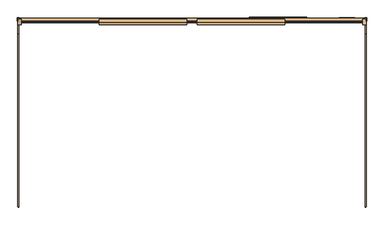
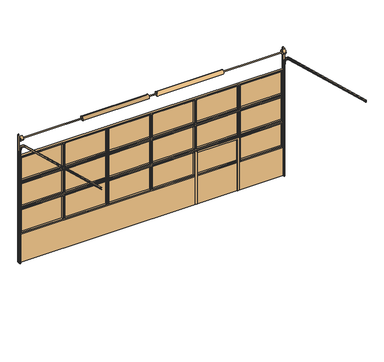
"""IFC4 building model written with IfcOpenShell, lengths in millimetres: door geometry, Vrata Nassau 9000M : Vrata Nassau 9000M."""

from ifc_helpers import new_model, si_unit, point, frame, frame_2d, origin, origin_with_axes, place, context, project, spatial, polyline, circle_curve, trimmed, segment, composite_curve, outline, extrude, faceted_brep, source, transform, mapped, element, save
from ifc_brep_helpers import plane_surface, cylinder_surface, revolved_surface, advanced_brep


def door_d3f973e1(model_context):
    return source(origin(), model_context, "Body", "SolidModel", [
        extrude(outline(polyline([(1384.0, 2140.0), (1384.0, 1070.0), (0.0, 1070.0), (0.0, 1120.0), (1334.0, 1120.0), (1334.0, 2090.0), (0.0, 2090.0), (0.0, 2140.0), (1384.0, 2140.0)])), frame((0.0, -222.5, 0.0), z_axis=(0.0, 1.0, 0.0), x_axis=(0.0, 0.0, 1.0)), (0.0, 0.0, 1.0), 10.0),
        extrude(outline(polyline([(0.0, 2140.0), (1384.0, 2140.0), (1384.0, 1070.0), (0.0, 1070.0), (0.0, 1120.0), (1334.0, 1120.0), (1334.0, 2090.0), (0.0, 2090.0), (0.0, 2140.0)])), frame((0.0, -276.5, 0.0), z_axis=(0.0, 1.0, 0.0), x_axis=(0.0, 0.0, 1.0)), (0.0, 0.0, 1.0), 10.0),
        extrude(outline(composite_curve([segment(polyline([(617.5881905, 2767.6679147), (517.5881905, 2740.8729955)]), True, "CONTINUOUS"), segment(trimmed(circle_curve(frame_2d((515.0, 2750.5322537)), 10.0), [point((517.5881905, 2740.8729955))], [point((505.0, 2750.5322537))], False, "CARTESIAN"), True, "CONTINUOUS"), segment(polyline([(505.0, 2750.5322537), (505.0, 3024.4677463)]), True, "CONTINUOUS"), segment(trimmed(circle_curve(frame_2d((515.0, 3024.4677463)), 10.0), [point((505.0, 3024.4677463))], [point((517.5881905, 3034.1270045))], False, "CARTESIAN"), True, "CONTINUOUS"), segment(polyline([(517.5881905, 3034.1270045), (617.5881905, 3007.3320853)]), True, "CONTINUOUS"), segment(trimmed(circle_curve(frame_2d((615.0, 2997.672827)), 10.0), [point((617.5881905, 3007.3320853))], [point((625.0, 2997.672827))], False, "CARTESIAN"), True, "CONTINUOUS"), segment(polyline([(625.0, 2997.672827), (625.0, 2777.327173)]), True, "CONTINUOUS"), segment(trimmed(circle_curve(frame_2d((615.0, 2777.327173)), 10.0), [point((625.0, 2777.327173))], [point((617.5881905, 2767.6679147))], False, "CARTESIAN"), True, "CONTINUOUS")], self_intersect=False)), frame((0.0, -225.5, 0.0), z_axis=(0.0, 1.0, 0.0), x_axis=(0.0, 0.0, 1.0)), (0.0, 0.0, 1.0), 7.0),
        extrude(outline(polyline([(2116.0, -230.5), (1106.0, -230.5), (1106.0, -225.5), (2116.0, -225.5), (2116.0, -230.5)])), frame((0.0, 0.0, 2119.0), z_axis=(0.0, 0.0, 1.0), x_axis=(1.0, 0.0, 0.0)), (0.0, 0.0, 1.0), 585.0),
        faceted_brep([(1096.0, -225.5, 2109.0), (1096.0, -269.5, 2109.0), (1096.0, -269.5, 2714.0), (1096.0, -225.5, 2714.0), (1091.0, -223.5, 2104.0), (1091.0, -225.5, 2104.0), (1091.0, -225.5, 2719.0), (1091.0, -223.5, 2719.0), (1106.0, -271.5, 2119.0), (1106.0, -223.5, 2119.0), (1106.0, -223.5, 2704.0), (1106.0, -271.5, 2704.0), (1091.0, -269.5, 2104.0), (1091.0, -271.5, 2104.0), (1091.0, -271.5, 2719.0), (1091.0, -269.5, 2719.0), (2126.0, -269.5, 2714.0), (2126.0, -225.5, 2714.0), (2131.0, -225.5, 2719.0), (2131.0, -223.5, 2719.0), (2116.0, -223.5, 2704.0), (2116.0, -271.5, 2704.0), (2131.0, -271.5, 2719.0), (2131.0, -269.5, 2719.0), (2126.0, -269.5, 2109.0), (2126.0, -225.5, 2109.0), (2131.0, -225.5, 2104.0), (2131.0, -223.5, 2104.0), (2116.0, -223.5, 2119.0), (2116.0, -271.5, 2119.0), (2131.0, -271.5, 2104.0), (2131.0, -269.5, 2104.0)], [[[0, 1, 2, 3]], [[4, 5, 6, 7]], [[8, 9, 10, 11]], [[12, 13, 14, 15]], [[3, 2, 16, 17]], [[7, 6, 18, 19]], [[11, 10, 20, 21]], [[15, 14, 22, 23]], [[17, 16, 24, 25]], [[19, 18, 26, 27]], [[21, 20, 28, 29]], [[23, 22, 30, 31]], [[15, 23, 31, 12], [1, 24, 16, 2]], [[25, 24, 1, 0]], [[5, 26, 18, 6], [3, 17, 25, 0]], [[27, 26, 5, 4]], [[7, 19, 27, 4], [9, 28, 20, 10]], [[29, 28, 9, 8]], [[13, 30, 22, 14], [11, 21, 29, 8]], [[31, 30, 13, 12]]]),
        extrude(outline(polyline([(1042.0, -230.5), (32.0, -230.5), (32.0, -225.5), (1042.0, -225.5), (1042.0, -230.5)])), frame((0.0, 0.0, 2119.0), z_axis=(0.0, 0.0, 1.0), x_axis=(1.0, 0.0, 0.0)), (0.0, 0.0, 1.0), 585.0),
        faceted_brep([(22.0, -225.5, 2109.0), (22.0, -269.5, 2109.0), (22.0, -269.5, 2714.0), (22.0, -225.5, 2714.0), (17.0, -223.5, 2104.0), (17.0, -225.5, 2104.0), (17.0, -225.5, 2719.0), (17.0, -223.5, 2719.0), (32.0, -271.5, 2119.0), (32.0, -223.5, 2119.0), (32.0, -223.5, 2704.0), (32.0, -271.5, 2704.0), (17.0, -269.5, 2104.0), (17.0, -271.5, 2104.0), (17.0, -271.5, 2719.0), (17.0, -269.5, 2719.0), (1052.0, -269.5, 2714.0), (1052.0, -225.5, 2714.0), (1057.0, -225.5, 2719.0), (1057.0, -223.5, 2719.0), (1042.0, -223.5, 2704.0), (1042.0, -271.5, 2704.0), (1057.0, -271.5, 2719.0), (1057.0, -269.5, 2719.0), (1052.0, -269.5, 2109.0), (1052.0, -225.5, 2109.0), (1057.0, -225.5, 2104.0), (1057.0, -223.5, 2104.0), (1042.0, -223.5, 2119.0), (1042.0, -271.5, 2119.0), (1057.0, -271.5, 2104.0), (1057.0, -269.5, 2104.0)], [[[0, 1, 2, 3]], [[4, 5, 6, 7]], [[8, 9, 10, 11]], [[12, 13, 14, 15]], [[3, 2, 16, 17]], [[7, 6, 18, 19]], [[11, 10, 20, 21]], [[15, 14, 22, 23]], [[17, 16, 24, 25]], [[19, 18, 26, 27]], [[21, 20, 28, 29]], [[23, 22, 30, 31]], [[15, 23, 31, 12], [1, 24, 16, 2]], [[25, 24, 1, 0]], [[5, 26, 18, 6], [3, 17, 25, 0]], [[27, 26, 5, 4]], [[7, 19, 27, 4], [9, 28, 20, 10]], [[29, 28, 9, 8]], [[13, 30, 22, 14], [11, 21, 29, 8]], [[31, 30, 13, 12]]]),
        extrude(outline(polyline([(-32.0, -230.5), (-1042.0, -230.5), (-1042.0, -225.5), (-32.0, -225.5), (-32.0, -230.5)])), frame((0.0, 0.0, 2119.0), z_axis=(0.0, 0.0, 1.0), x_axis=(1.0, 0.0, 0.0)), (0.0, 0.0, 1.0), 585.0),
        faceted_brep([(-1052.0, -225.5, 2109.0), (-1052.0, -269.5, 2109.0), (-1052.0, -269.5, 2714.0), (-1052.0, -225.5, 2714.0), (-1057.0, -223.5, 2104.0), (-1057.0, -225.5, 2104.0), (-1057.0, -225.5, 2719.0), (-1057.0, -223.5, 2719.0), (-1042.0, -271.5, 2119.0), (-1042.0, -223.5, 2119.0), (-1042.0, -223.5, 2704.0), (-1042.0, -271.5, 2704.0), (-1057.0, -269.5, 2104.0), (-1057.0, -271.5, 2104.0), (-1057.0, -271.5, 2719.0), (-1057.0, -269.5, 2719.0), (-22.0, -269.5, 2714.0), (-22.0, -225.5, 2714.0), (-17.0, -225.5, 2719.0), (-17.0, -223.5, 2719.0), (-32.0, -223.5, 2704.0), (-32.0, -271.5, 2704.0), (-17.0, -271.5, 2719.0), (-17.0, -269.5, 2719.0), (-22.0, -269.5, 2109.0), (-22.0, -225.5, 2109.0), (-17.0, -225.5, 2104.0), (-17.0, -223.5, 2104.0), (-32.0, -223.5, 2119.0), (-32.0, -271.5, 2119.0), (-17.0, -271.5, 2104.0), (-17.0, -269.5, 2104.0)], [[[0, 1, 2, 3]], [[4, 5, 6, 7]], [[8, 9, 10, 11]], [[12, 13, 14, 15]], [[3, 2, 16, 17]], [[7, 6, 18, 19]], [[11, 10, 20, 21]], [[15, 14, 22, 23]], [[17, 16, 24, 25]], [[19, 18, 26, 27]], [[21, 20, 28, 29]], [[23, 22, 30, 31]], [[15, 23, 31, 12], [1, 24, 16, 2]], [[25, 24, 1, 0]], [[5, 26, 18, 6], [3, 17, 25, 0]], [[27, 26, 5, 4]], [[7, 19, 27, 4], [9, 28, 20, 10]], [[29, 28, 9, 8]], [[13, 30, 22, 14], [11, 21, 29, 8]], [[31, 30, 13, 12]]]),
        extrude(outline(polyline([(-1106.0, -230.5), (-2116.0, -230.5), (-2116.0, -225.5), (-1106.0, -225.5), (-1106.0, -230.5)])), frame((0.0, 0.0, 2119.0), z_axis=(0.0, 0.0, 1.0), x_axis=(1.0, 0.0, 0.0)), (0.0, 0.0, 1.0), 585.0),
        faceted_brep([(-2126.0, -225.5, 2109.0), (-2126.0, -269.5, 2109.0), (-2126.0, -269.5, 2714.0), (-2126.0, -225.5, 2714.0), (-2131.0, -223.5, 2104.0), (-2131.0, -225.5, 2104.0), (-2131.0, -225.5, 2719.0), (-2131.0, -223.5, 2719.0), (-2116.0, -271.5, 2119.0), (-2116.0, -223.5, 2119.0), (-2116.0, -223.5, 2704.0), (-2116.0, -271.5, 2704.0), (-2131.0, -269.5, 2104.0), (-2131.0, -271.5, 2104.0), (-2131.0, -271.5, 2719.0), (-2131.0, -269.5, 2719.0), (-1096.0, -269.5, 2714.0), (-1096.0, -225.5, 2714.0), (-1091.0, -225.5, 2719.0), (-1091.0, -223.5, 2719.0), (-1106.0, -223.5, 2704.0), (-1106.0, -271.5, 2704.0), (-1091.0, -271.5, 2719.0), (-1091.0, -269.5, 2719.0), (-1096.0, -269.5, 2109.0), (-1096.0, -225.5, 2109.0), (-1091.0, -225.5, 2104.0), (-1091.0, -223.5, 2104.0), (-1106.0, -223.5, 2119.0), (-1106.0, -271.5, 2119.0), (-1091.0, -271.5, 2104.0), (-1091.0, -269.5, 2104.0)], [[[0, 1, 2, 3]], [[4, 5, 6, 7]], [[8, 9, 10, 11]], [[12, 13, 14, 15]], [[3, 2, 16, 17]], [[7, 6, 18, 19]], [[11, 10, 20, 21]], [[15, 14, 22, 23]], [[17, 16, 24, 25]], [[19, 18, 26, 27]], [[21, 20, 28, 29]], [[23, 22, 30, 31]], [[15, 23, 31, 12], [1, 24, 16, 2]], [[25, 24, 1, 0]], [[5, 26, 18, 6], [3, 17, 25, 0]], [[27, 26, 5, 4]], [[7, 19, 27, 4], [9, 28, 20, 10]], [[29, 28, 9, 8]], [[13, 30, 22, 14], [11, 21, 29, 8]], [[31, 30, 13, 12]]]),
        extrude(outline(polyline([(3190.0, -230.5), (2180.0, -230.5), (2180.0, -225.5), (3190.0, -225.5), (3190.0, -230.5)])), frame((0.0, 0.0, 2119.0), z_axis=(0.0, 0.0, 1.0), x_axis=(1.0, 0.0, 0.0)), (0.0, 0.0, 1.0), 585.0),
        faceted_brep([(2170.0, -225.5, 2109.0), (2170.0, -269.5, 2109.0), (2170.0, -269.5, 2714.0), (2170.0, -225.5, 2714.0), (2165.0, -223.5, 2104.0), (2165.0, -225.5, 2104.0), (2165.0, -225.5, 2719.0), (2165.0, -223.5, 2719.0), (2180.0, -271.5, 2119.0), (2180.0, -223.5, 2119.0), (2180.0, -223.5, 2704.0), (2180.0, -271.5, 2704.0), (2165.0, -269.5, 2104.0), (2165.0, -271.5, 2104.0), (2165.0, -271.5, 2719.0), (2165.0, -269.5, 2719.0), (3200.0, -269.5, 2714.0), (3200.0, -225.5, 2714.0), (3205.0, -225.5, 2719.0), (3205.0, -223.5, 2719.0), (3190.0, -223.5, 2704.0), (3190.0, -271.5, 2704.0), (3205.0, -271.5, 2719.0), (3205.0, -269.5, 2719.0), (3200.0, -269.5, 2109.0), (3200.0, -225.5, 2109.0), (3205.0, -225.5, 2104.0), (3205.0, -223.5, 2104.0), (3190.0, -223.5, 2119.0), (3190.0, -271.5, 2119.0), (3205.0, -271.5, 2104.0), (3205.0, -269.5, 2104.0)], [[[0, 1, 2, 3]], [[4, 5, 6, 7]], [[8, 9, 10, 11]], [[12, 13, 14, 15]], [[3, 2, 16, 17]], [[7, 6, 18, 19]], [[11, 10, 20, 21]], [[15, 14, 22, 23]], [[17, 16, 24, 25]], [[19, 18, 26, 27]], [[21, 20, 28, 29]], [[23, 22, 30, 31]], [[15, 23, 31, 12], [1, 24, 16, 2]], [[25, 24, 1, 0]], [[5, 26, 18, 6], [3, 17, 25, 0]], [[27, 26, 5, 4]], [[7, 19, 27, 4], [9, 28, 20, 10]], [[29, 28, 9, 8]], [[13, 30, 22, 14], [11, 21, 29, 8]], [[31, 30, 13, 12]]]),
        extrude(outline(polyline([(-2180.0, -230.5), (-3190.0, -230.5), (-3190.0, -225.5), (-2180.0, -225.5), (-2180.0, -230.5)])), frame((0.0, 0.0, 2119.0), z_axis=(0.0, 0.0, 1.0), x_axis=(1.0, 0.0, 0.0)), (0.0, 0.0, 1.0), 585.0),
        faceted_brep([(-3200.0, -225.5, 2109.0), (-3200.0, -269.5, 2109.0), (-3200.0, -269.5, 2714.0), (-3200.0, -225.5, 2714.0), (-3205.0, -223.5, 2104.0), (-3205.0, -225.5, 2104.0), (-3205.0, -225.5, 2719.0), (-3205.0, -223.5, 2719.0), (-3190.0, -271.5, 2119.0), (-3190.0, -223.5, 2119.0), (-3190.0, -223.5, 2704.0), (-3190.0, -271.5, 2704.0), (-3205.0, -269.5, 2104.0), (-3205.0, -271.5, 2104.0), (-3205.0, -271.5, 2719.0), (-3205.0, -269.5, 2719.0), (-2170.0, -269.5, 2714.0), (-2170.0, -225.5, 2714.0), (-2165.0, -225.5, 2719.0), (-2165.0, -223.5, 2719.0), (-2180.0, -223.5, 2704.0), (-2180.0, -271.5, 2704.0), (-2165.0, -271.5, 2719.0), (-2165.0, -269.5, 2719.0), (-2170.0, -269.5, 2109.0), (-2170.0, -225.5, 2109.0), (-2165.0, -225.5, 2104.0), (-2165.0, -223.5, 2104.0), (-2180.0, -223.5, 2119.0), (-2180.0, -271.5, 2119.0), (-2165.0, -271.5, 2104.0), (-2165.0, -269.5, 2104.0)], [[[0, 1, 2, 3]], [[4, 5, 6, 7]], [[8, 9, 10, 11]], [[12, 13, 14, 15]], [[3, 2, 16, 17]], [[7, 6, 18, 19]], [[11, 10, 20, 21]], [[15, 14, 22, 23]], [[17, 16, 24, 25]], [[19, 18, 26, 27]], [[21, 20, 28, 29]], [[23, 22, 30, 31]], [[15, 23, 31, 12], [1, 24, 16, 2]], [[25, 24, 1, 0]], [[5, 26, 18, 6], [3, 17, 25, 0]], [[27, 26, 5, 4]], [[7, 19, 27, 4], [9, 28, 20, 10]], [[29, 28, 9, 8]], [[13, 30, 22, 14], [11, 21, 29, 8]], [[31, 30, 13, 12]]]),
        extrude(outline(polyline([(2074.0, -3250.0), (2074.0, 3250.0), (2749.0, 3250.0), (2749.0, -3250.0), (2074.0, -3250.0)]), holes=[polyline([(2716.5, 2170.0), (2716.5, 3200.0), (2109.0, 3200.0), (2109.0, 2170.0), (2716.5, 2170.0)]), polyline([(2716.5, -3200.0), (2716.5, -2170.0), (2109.0, -2170.0), (2109.0, -3200.0), (2716.5, -3200.0)]), polyline([(2716.5, -2126.0), (2716.5, -1096.0), (2109.0, -1096.0), (2109.0, -2126.0), (2716.5, -2126.0)]), polyline([(2716.5, -1052.0), (2716.5, -22.0), (2109.0, -22.0), (2109.0, -1052.0), (2716.5, -1052.0)]), polyline([(2716.5, 22.0), (2716.5, 1052.0), (2109.0, 1052.0), (2109.0, 22.0), (2716.5, 22.0)]), polyline([(2716.5, 1096.0), (2716.5, 2126.0), (2109.0, 2126.0), (2109.0, 1096.0), (2716.5, 1096.0)])]), frame((0.0, -269.5, 0.0), z_axis=(0.0, 1.0, 0.0), x_axis=(0.0, 0.0, 1.0)), (0.0, 0.0, 1.0), 44.0),
        extrude(outline(polyline([(2116.0, -230.5), (1106.0, -230.5), (1106.0, -225.5), (2116.0, -225.5), (2116.0, -230.5)])), frame((0.0, 0.0, 1444.0), z_axis=(0.0, 0.0, 1.0), x_axis=(1.0, 0.0, 0.0)), (0.0, 0.0, 1.0), 585.0),
        faceted_brep([(1096.0, -225.5, 1434.0), (1096.0, -269.5, 1434.0), (1096.0, -269.5, 2039.0), (1096.0, -225.5, 2039.0), (1091.0, -223.5, 1429.0), (1091.0, -225.5, 1429.0), (1091.0, -225.5, 2044.0), (1091.0, -223.5, 2044.0), (1106.0, -271.5, 1444.0), (1106.0, -223.5, 1444.0), (1106.0, -223.5, 2029.0), (1106.0, -271.5, 2029.0), (1091.0, -269.5, 1429.0), (1091.0, -271.5, 1429.0), (1091.0, -271.5, 2044.0), (1091.0, -269.5, 2044.0), (2126.0, -269.5, 2039.0), (2126.0, -225.5, 2039.0), (2131.0, -225.5, 2044.0), (2131.0, -223.5, 2044.0), (2116.0, -223.5, 2029.0), (2116.0, -271.5, 2029.0), (2131.0, -271.5, 2044.0), (2131.0, -269.5, 2044.0), (2126.0, -269.5, 1434.0), (2126.0, -225.5, 1434.0), (2131.0, -225.5, 1429.0), (2131.0, -223.5, 1429.0), (2116.0, -223.5, 1444.0), (2116.0, -271.5, 1444.0), (2131.0, -271.5, 1429.0), (2131.0, -269.5, 1429.0)], [[[0, 1, 2, 3]], [[4, 5, 6, 7]], [[8, 9, 10, 11]], [[12, 13, 14, 15]], [[3, 2, 16, 17]], [[7, 6, 18, 19]], [[11, 10, 20, 21]], [[15, 14, 22, 23]], [[17, 16, 24, 25]], [[19, 18, 26, 27]], [[21, 20, 28, 29]], [[23, 22, 30, 31]], [[15, 23, 31, 12], [1, 24, 16, 2]], [[25, 24, 1, 0]], [[5, 26, 18, 6], [3, 17, 25, 0]], [[27, 26, 5, 4]], [[7, 19, 27, 4], [9, 28, 20, 10]], [[29, 28, 9, 8]], [[13, 30, 22, 14], [11, 21, 29, 8]], [[31, 30, 13, 12]]]),
        extrude(outline(polyline([(1042.0, -230.5), (32.0, -230.5), (32.0, -225.5), (1042.0, -225.5), (1042.0, -230.5)])), frame((0.0, 0.0, 1444.0), z_axis=(0.0, 0.0, 1.0), x_axis=(1.0, 0.0, 0.0)), (0.0, 0.0, 1.0), 585.0),
        faceted_brep([(22.0, -225.5, 1434.0), (22.0, -269.5, 1434.0), (22.0, -269.5, 2039.0), (22.0, -225.5, 2039.0), (17.0, -223.5, 1429.0), (17.0, -225.5, 1429.0), (17.0, -225.5, 2044.0), (17.0, -223.5, 2044.0), (32.0, -271.5, 1444.0), (32.0, -223.5, 1444.0), (32.0, -223.5, 2029.0), (32.0, -271.5, 2029.0), (17.0, -269.5, 1429.0), (17.0, -271.5, 1429.0), (17.0, -271.5, 2044.0), (17.0, -269.5, 2044.0), (1052.0, -269.5, 2039.0), (1052.0, -225.5, 2039.0), (1057.0, -225.5, 2044.0), (1057.0, -223.5, 2044.0), (1042.0, -223.5, 2029.0), (1042.0, -271.5, 2029.0), (1057.0, -271.5, 2044.0), (1057.0, -269.5, 2044.0), (1052.0, -269.5, 1434.0), (1052.0, -225.5, 1434.0), (1057.0, -225.5, 1429.0), (1057.0, -223.5, 1429.0), (1042.0, -223.5, 1444.0), (1042.0, -271.5, 1444.0), (1057.0, -271.5, 1429.0), (1057.0, -269.5, 1429.0)], [[[0, 1, 2, 3]], [[4, 5, 6, 7]], [[8, 9, 10, 11]], [[12, 13, 14, 15]], [[3, 2, 16, 17]], [[7, 6, 18, 19]], [[11, 10, 20, 21]], [[15, 14, 22, 23]], [[17, 16, 24, 25]], [[19, 18, 26, 27]], [[21, 20, 28, 29]], [[23, 22, 30, 31]], [[15, 23, 31, 12], [1, 24, 16, 2]], [[25, 24, 1, 0]], [[5, 26, 18, 6], [3, 17, 25, 0]], [[27, 26, 5, 4]], [[7, 19, 27, 4], [9, 28, 20, 10]], [[29, 28, 9, 8]], [[13, 30, 22, 14], [11, 21, 29, 8]], [[31, 30, 13, 12]]]),
        extrude(outline(polyline([(-32.0, -230.5), (-1042.0, -230.5), (-1042.0, -225.5), (-32.0, -225.5), (-32.0, -230.5)])), frame((0.0, 0.0, 1444.0), z_axis=(0.0, 0.0, 1.0), x_axis=(1.0, 0.0, 0.0)), (0.0, 0.0, 1.0), 585.0),
        faceted_brep([(-1052.0, -225.5, 1434.0), (-1052.0, -269.5, 1434.0), (-1052.0, -269.5, 2039.0), (-1052.0, -225.5, 2039.0), (-1057.0, -223.5, 1429.0), (-1057.0, -225.5, 1429.0), (-1057.0, -225.5, 2044.0), (-1057.0, -223.5, 2044.0), (-1042.0, -271.5, 1444.0), (-1042.0, -223.5, 1444.0), (-1042.0, -223.5, 2029.0), (-1042.0, -271.5, 2029.0), (-1057.0, -269.5, 1429.0), (-1057.0, -271.5, 1429.0), (-1057.0, -271.5, 2044.0), (-1057.0, -269.5, 2044.0), (-22.0, -269.5, 2039.0), (-22.0, -225.5, 2039.0), (-17.0, -225.5, 2044.0), (-17.0, -223.5, 2044.0), (-32.0, -223.5, 2029.0), (-32.0, -271.5, 2029.0), (-17.0, -271.5, 2044.0), (-17.0, -269.5, 2044.0), (-22.0, -269.5, 1434.0), (-22.0, -225.5, 1434.0), (-17.0, -225.5, 1429.0), (-17.0, -223.5, 1429.0), (-32.0, -223.5, 1444.0), (-32.0, -271.5, 1444.0), (-17.0, -271.5, 1429.0), (-17.0, -269.5, 1429.0)], [[[0, 1, 2, 3]], [[4, 5, 6, 7]], [[8, 9, 10, 11]], [[12, 13, 14, 15]], [[3, 2, 16, 17]], [[7, 6, 18, 19]], [[11, 10, 20, 21]], [[15, 14, 22, 23]], [[17, 16, 24, 25]], [[19, 18, 26, 27]], [[21, 20, 28, 29]], [[23, 22, 30, 31]], [[15, 23, 31, 12], [1, 24, 16, 2]], [[25, 24, 1, 0]], [[5, 26, 18, 6], [3, 17, 25, 0]], [[27, 26, 5, 4]], [[7, 19, 27, 4], [9, 28, 20, 10]], [[29, 28, 9, 8]], [[13, 30, 22, 14], [11, 21, 29, 8]], [[31, 30, 13, 12]]]),
        extrude(outline(polyline([(-1106.0, -230.5), (-2116.0, -230.5), (-2116.0, -225.5), (-1106.0, -225.5), (-1106.0, -230.5)])), frame((0.0, 0.0, 1444.0), z_axis=(0.0, 0.0, 1.0), x_axis=(1.0, 0.0, 0.0)), (0.0, 0.0, 1.0), 585.0),
        faceted_brep([(-2126.0, -225.5, 1434.0), (-2126.0, -269.5, 1434.0), (-2126.0, -269.5, 2039.0), (-2126.0, -225.5, 2039.0), (-2131.0, -223.5, 1429.0), (-2131.0, -225.5, 1429.0), (-2131.0, -225.5, 2044.0), (-2131.0, -223.5, 2044.0), (-2116.0, -271.5, 1444.0), (-2116.0, -223.5, 1444.0), (-2116.0, -223.5, 2029.0), (-2116.0, -271.5, 2029.0), (-2131.0, -269.5, 1429.0), (-2131.0, -271.5, 1429.0), (-2131.0, -271.5, 2044.0), (-2131.0, -269.5, 2044.0), (-1096.0, -269.5, 2039.0), (-1096.0, -225.5, 2039.0), (-1091.0, -225.5, 2044.0), (-1091.0, -223.5, 2044.0), (-1106.0, -223.5, 2029.0), (-1106.0, -271.5, 2029.0), (-1091.0, -271.5, 2044.0), (-1091.0, -269.5, 2044.0), (-1096.0, -269.5, 1434.0), (-1096.0, -225.5, 1434.0), (-1091.0, -225.5, 1429.0), (-1091.0, -223.5, 1429.0), (-1106.0, -223.5, 1444.0), (-1106.0, -271.5, 1444.0), (-1091.0, -271.5, 1429.0), (-1091.0, -269.5, 1429.0)], [[[0, 1, 2, 3]], [[4, 5, 6, 7]], [[8, 9, 10, 11]], [[12, 13, 14, 15]], [[3, 2, 16, 17]], [[7, 6, 18, 19]], [[11, 10, 20, 21]], [[15, 14, 22, 23]], [[17, 16, 24, 25]], [[19, 18, 26, 27]], [[21, 20, 28, 29]], [[23, 22, 30, 31]], [[15, 23, 31, 12], [1, 24, 16, 2]], [[25, 24, 1, 0]], [[5, 26, 18, 6], [3, 17, 25, 0]], [[27, 26, 5, 4]], [[7, 19, 27, 4], [9, 28, 20, 10]], [[29, 28, 9, 8]], [[13, 30, 22, 14], [11, 21, 29, 8]], [[31, 30, 13, 12]]]),
        extrude(outline(polyline([(3190.0, -230.5), (2180.0, -230.5), (2180.0, -225.5), (3190.0, -225.5), (3190.0, -230.5)])), frame((0.0, 0.0, 1444.0), z_axis=(0.0, 0.0, 1.0), x_axis=(1.0, 0.0, 0.0)), (0.0, 0.0, 1.0), 585.0),
        faceted_brep([(2170.0, -225.5, 1434.0), (2170.0, -269.5, 1434.0), (2170.0, -269.5, 2039.0), (2170.0, -225.5, 2039.0), (2165.0, -223.5, 1429.0), (2165.0, -225.5, 1429.0), (2165.0, -225.5, 2044.0), (2165.0, -223.5, 2044.0), (2180.0, -271.5, 1444.0), (2180.0, -223.5, 1444.0), (2180.0, -223.5, 2029.0), (2180.0, -271.5, 2029.0), (2165.0, -269.5, 1429.0), (2165.0, -271.5, 1429.0), (2165.0, -271.5, 2044.0), (2165.0, -269.5, 2044.0), (3200.0, -269.5, 2039.0), (3200.0, -225.5, 2039.0), (3205.0, -225.5, 2044.0), (3205.0, -223.5, 2044.0), (3190.0, -223.5, 2029.0), (3190.0, -271.5, 2029.0), (3205.0, -271.5, 2044.0), (3205.0, -269.5, 2044.0), (3200.0, -269.5, 1434.0), (3200.0, -225.5, 1434.0), (3205.0, -225.5, 1429.0), (3205.0, -223.5, 1429.0), (3190.0, -223.5, 1444.0), (3190.0, -271.5, 1444.0), (3205.0, -271.5, 1429.0), (3205.0, -269.5, 1429.0)], [[[0, 1, 2, 3]], [[4, 5, 6, 7]], [[8, 9, 10, 11]], [[12, 13, 14, 15]], [[3, 2, 16, 17]], [[7, 6, 18, 19]], [[11, 10, 20, 21]], [[15, 14, 22, 23]], [[17, 16, 24, 25]], [[19, 18, 26, 27]], [[21, 20, 28, 29]], [[23, 22, 30, 31]], [[15, 23, 31, 12], [1, 24, 16, 2]], [[25, 24, 1, 0]], [[5, 26, 18, 6], [3, 17, 25, 0]], [[27, 26, 5, 4]], [[7, 19, 27, 4], [9, 28, 20, 10]], [[29, 28, 9, 8]], [[13, 30, 22, 14], [11, 21, 29, 8]], [[31, 30, 13, 12]]]),
        extrude(outline(polyline([(-2180.0, -230.5), (-3190.0, -230.5), (-3190.0, -225.5), (-2180.0, -225.5), (-2180.0, -230.5)])), frame((0.0, 0.0, 1444.0), z_axis=(0.0, 0.0, 1.0), x_axis=(1.0, 0.0, 0.0)), (0.0, 0.0, 1.0), 585.0),
        faceted_brep([(-3200.0, -225.5, 1434.0), (-3200.0, -269.5, 1434.0), (-3200.0, -269.5, 2039.0), (-3200.0, -225.5, 2039.0), (-3205.0, -223.5, 1429.0), (-3205.0, -225.5, 1429.0), (-3205.0, -225.5, 2044.0), (-3205.0, -223.5, 2044.0), (-3190.0, -271.5, 1444.0), (-3190.0, -223.5, 1444.0), (-3190.0, -223.5, 2029.0), (-3190.0, -271.5, 2029.0), (-3205.0, -269.5, 1429.0), (-3205.0, -271.5, 1429.0), (-3205.0, -271.5, 2044.0), (-3205.0, -269.5, 2044.0), (-2170.0, -269.5, 2039.0), (-2170.0, -225.5, 2039.0), (-2165.0, -225.5, 2044.0), (-2165.0, -223.5, 2044.0), (-2180.0, -223.5, 2029.0), (-2180.0, -271.5, 2029.0), (-2165.0, -271.5, 2044.0), (-2165.0, -269.5, 2044.0), (-2170.0, -269.5, 1434.0), (-2170.0, -225.5, 1434.0), (-2165.0, -225.5, 1429.0), (-2165.0, -223.5, 1429.0), (-2180.0, -223.5, 1444.0), (-2180.0, -271.5, 1444.0), (-2165.0, -271.5, 1429.0), (-2165.0, -269.5, 1429.0)], [[[0, 1, 2, 3]], [[4, 5, 6, 7]], [[8, 9, 10, 11]], [[12, 13, 14, 15]], [[3, 2, 16, 17]], [[7, 6, 18, 19]], [[11, 10, 20, 21]], [[15, 14, 22, 23]], [[17, 16, 24, 25]], [[19, 18, 26, 27]], [[21, 20, 28, 29]], [[23, 22, 30, 31]], [[15, 23, 31, 12], [1, 24, 16, 2]], [[25, 24, 1, 0]], [[5, 26, 18, 6], [3, 17, 25, 0]], [[27, 26, 5, 4]], [[7, 19, 27, 4], [9, 28, 20, 10]], [[29, 28, 9, 8]], [[13, 30, 22, 14], [11, 21, 29, 8]], [[31, 30, 13, 12]]]),
        extrude(outline(polyline([(1399.0, -3250.0), (1399.0, 3250.0), (2074.0, 3250.0), (2074.0, -3250.0), (1399.0, -3250.0)]), holes=[polyline([(2041.5, 2170.0), (2041.5, 3200.0), (1434.0, 3200.0), (1434.0, 2170.0), (2041.5, 2170.0)]), polyline([(2041.5, -3200.0), (2041.5, -2170.0), (1434.0, -2170.0), (1434.0, -3200.0), (2041.5, -3200.0)]), polyline([(2041.5, -2126.0), (2041.5, -1096.0), (1434.0, -1096.0), (1434.0, -2126.0), (2041.5, -2126.0)]), polyline([(2041.5, -1052.0), (2041.5, -22.0), (1434.0, -22.0), (1434.0, -1052.0), (2041.5, -1052.0)]), polyline([(2041.5, 22.0), (2041.5, 1052.0), (1434.0, 1052.0), (1434.0, 22.0), (2041.5, 22.0)]), polyline([(2041.5, 1096.0), (2041.5, 2126.0), (1434.0, 2126.0), (1434.0, 1096.0), (2041.5, 1096.0)])]), frame((0.0, -269.5, 0.0), z_axis=(0.0, 1.0, 0.0), x_axis=(0.0, 0.0, 1.0)), (0.0, 0.0, 1.0), 44.0),
        extrude(outline(polyline([(2116.0, -230.5), (1106.0, -230.5), (1106.0, -225.5), (2116.0, -225.5), (2116.0, -230.5)])), frame((0.0, 0.0, 769.0), z_axis=(0.0, 0.0, 1.0), x_axis=(1.0, 0.0, 0.0)), (0.0, 0.0, 1.0), 585.0),
        faceted_brep([(1096.0, -225.5, 759.0), (1096.0, -269.5, 759.0), (1096.0, -269.5, 1364.0), (1096.0, -225.5, 1364.0), (1091.0, -223.5, 754.0), (1091.0, -225.5, 754.0), (1091.0, -225.5, 1369.0), (1091.0, -223.5, 1369.0), (1106.0, -271.5, 769.0), (1106.0, -223.5, 769.0), (1106.0, -223.5, 1354.0), (1106.0, -271.5, 1354.0), (1091.0, -269.5, 754.0), (1091.0, -271.5, 754.0), (1091.0, -271.5, 1369.0), (1091.0, -269.5, 1369.0), (2126.0, -269.5, 1364.0), (2126.0, -225.5, 1364.0), (2131.0, -225.5, 1369.0), (2131.0, -223.5, 1369.0), (2116.0, -223.5, 1354.0), (2116.0, -271.5, 1354.0), (2131.0, -271.5, 1369.0), (2131.0, -269.5, 1369.0), (2126.0, -269.5, 759.0), (2126.0, -225.5, 759.0), (2131.0, -225.5, 754.0), (2131.0, -223.5, 754.0), (2116.0, -223.5, 769.0), (2116.0, -271.5, 769.0), (2131.0, -271.5, 754.0), (2131.0, -269.5, 754.0)], [[[0, 1, 2, 3]], [[4, 5, 6, 7]], [[8, 9, 10, 11]], [[12, 13, 14, 15]], [[3, 2, 16, 17]], [[7, 6, 18, 19]], [[11, 10, 20, 21]], [[15, 14, 22, 23]], [[17, 16, 24, 25]], [[19, 18, 26, 27]], [[21, 20, 28, 29]], [[23, 22, 30, 31]], [[15, 23, 31, 12], [1, 24, 16, 2]], [[25, 24, 1, 0]], [[5, 26, 18, 6], [3, 17, 25, 0]], [[27, 26, 5, 4]], [[7, 19, 27, 4], [9, 28, 20, 10]], [[29, 28, 9, 8]], [[13, 30, 22, 14], [11, 21, 29, 8]], [[31, 30, 13, 12]]]),
        extrude(outline(polyline([(1042.0, -230.5), (32.0, -230.5), (32.0, -225.5), (1042.0, -225.5), (1042.0, -230.5)])), frame((0.0, 0.0, 769.0), z_axis=(0.0, 0.0, 1.0), x_axis=(1.0, 0.0, 0.0)), (0.0, 0.0, 1.0), 585.0),
        faceted_brep([(22.0, -225.5, 759.0), (22.0, -269.5, 759.0), (22.0, -269.5, 1364.0), (22.0, -225.5, 1364.0), (17.0, -223.5, 754.0), (17.0, -225.5, 754.0), (17.0, -225.5, 1369.0), (17.0, -223.5, 1369.0), (32.0, -271.5, 769.0), (32.0, -223.5, 769.0), (32.0, -223.5, 1354.0), (32.0, -271.5, 1354.0), (17.0, -269.5, 754.0), (17.0, -271.5, 754.0), (17.0, -271.5, 1369.0), (17.0, -269.5, 1369.0), (1052.0, -269.5, 1364.0), (1052.0, -225.5, 1364.0), (1057.0, -225.5, 1369.0), (1057.0, -223.5, 1369.0), (1042.0, -223.5, 1354.0), (1042.0, -271.5, 1354.0), (1057.0, -271.5, 1369.0), (1057.0, -269.5, 1369.0), (1052.0, -269.5, 759.0), (1052.0, -225.5, 759.0), (1057.0, -225.5, 754.0), (1057.0, -223.5, 754.0), (1042.0, -223.5, 769.0), (1042.0, -271.5, 769.0), (1057.0, -271.5, 754.0), (1057.0, -269.5, 754.0)], [[[0, 1, 2, 3]], [[4, 5, 6, 7]], [[8, 9, 10, 11]], [[12, 13, 14, 15]], [[3, 2, 16, 17]], [[7, 6, 18, 19]], [[11, 10, 20, 21]], [[15, 14, 22, 23]], [[17, 16, 24, 25]], [[19, 18, 26, 27]], [[21, 20, 28, 29]], [[23, 22, 30, 31]], [[15, 23, 31, 12], [1, 24, 16, 2]], [[25, 24, 1, 0]], [[5, 26, 18, 6], [3, 17, 25, 0]], [[27, 26, 5, 4]], [[7, 19, 27, 4], [9, 28, 20, 10]], [[29, 28, 9, 8]], [[13, 30, 22, 14], [11, 21, 29, 8]], [[31, 30, 13, 12]]]),
        extrude(outline(polyline([(-32.0, -230.5), (-1042.0, -230.5), (-1042.0, -225.5), (-32.0, -225.5), (-32.0, -230.5)])), frame((0.0, 0.0, 769.0), z_axis=(0.0, 0.0, 1.0), x_axis=(1.0, 0.0, 0.0)), (0.0, 0.0, 1.0), 585.0),
        faceted_brep([(-1052.0, -225.5, 759.0), (-1052.0, -269.5, 759.0), (-1052.0, -269.5, 1364.0), (-1052.0, -225.5, 1364.0), (-1057.0, -223.5, 754.0), (-1057.0, -225.5, 754.0), (-1057.0, -225.5, 1369.0), (-1057.0, -223.5, 1369.0), (-1042.0, -271.5, 769.0), (-1042.0, -223.5, 769.0), (-1042.0, -223.5, 1354.0), (-1042.0, -271.5, 1354.0), (-1057.0, -269.5, 754.0), (-1057.0, -271.5, 754.0), (-1057.0, -271.5, 1369.0), (-1057.0, -269.5, 1369.0), (-22.0, -269.5, 1364.0), (-22.0, -225.5, 1364.0), (-17.0, -225.5, 1369.0), (-17.0, -223.5, 1369.0), (-32.0, -223.5, 1354.0), (-32.0, -271.5, 1354.0), (-17.0, -271.5, 1369.0), (-17.0, -269.5, 1369.0), (-22.0, -269.5, 759.0), (-22.0, -225.5, 759.0), (-17.0, -225.5, 754.0), (-17.0, -223.5, 754.0), (-32.0, -223.5, 769.0), (-32.0, -271.5, 769.0), (-17.0, -271.5, 754.0), (-17.0, -269.5, 754.0)], [[[0, 1, 2, 3]], [[4, 5, 6, 7]], [[8, 9, 10, 11]], [[12, 13, 14, 15]], [[3, 2, 16, 17]], [[7, 6, 18, 19]], [[11, 10, 20, 21]], [[15, 14, 22, 23]], [[17, 16, 24, 25]], [[19, 18, 26, 27]], [[21, 20, 28, 29]], [[23, 22, 30, 31]], [[15, 23, 31, 12], [1, 24, 16, 2]], [[25, 24, 1, 0]], [[5, 26, 18, 6], [3, 17, 25, 0]], [[27, 26, 5, 4]], [[7, 19, 27, 4], [9, 28, 20, 10]], [[29, 28, 9, 8]], [[13, 30, 22, 14], [11, 21, 29, 8]], [[31, 30, 13, 12]]]),
        extrude(outline(polyline([(-1106.0, -230.5), (-2116.0, -230.5), (-2116.0, -225.5), (-1106.0, -225.5), (-1106.0, -230.5)])), frame((0.0, 0.0, 769.0), z_axis=(0.0, 0.0, 1.0), x_axis=(1.0, 0.0, 0.0)), (0.0, 0.0, 1.0), 585.0),
        faceted_brep([(-2126.0, -225.5, 759.0), (-2126.0, -269.5, 759.0), (-2126.0, -269.5, 1364.0), (-2126.0, -225.5, 1364.0), (-2131.0, -223.5, 754.0), (-2131.0, -225.5, 754.0), (-2131.0, -225.5, 1369.0), (-2131.0, -223.5, 1369.0), (-2116.0, -271.5, 769.0), (-2116.0, -223.5, 769.0), (-2116.0, -223.5, 1354.0), (-2116.0, -271.5, 1354.0), (-2131.0, -269.5, 754.0), (-2131.0, -271.5, 754.0), (-2131.0, -271.5, 1369.0), (-2131.0, -269.5, 1369.0), (-1096.0, -269.5, 1364.0), (-1096.0, -225.5, 1364.0), (-1091.0, -225.5, 1369.0), (-1091.0, -223.5, 1369.0), (-1106.0, -223.5, 1354.0), (-1106.0, -271.5, 1354.0), (-1091.0, -271.5, 1369.0), (-1091.0, -269.5, 1369.0), (-1096.0, -269.5, 759.0), (-1096.0, -225.5, 759.0), (-1091.0, -225.5, 754.0), (-1091.0, -223.5, 754.0), (-1106.0, -223.5, 769.0), (-1106.0, -271.5, 769.0), (-1091.0, -271.5, 754.0), (-1091.0, -269.5, 754.0)], [[[0, 1, 2, 3]], [[4, 5, 6, 7]], [[8, 9, 10, 11]], [[12, 13, 14, 15]], [[3, 2, 16, 17]], [[7, 6, 18, 19]], [[11, 10, 20, 21]], [[15, 14, 22, 23]], [[17, 16, 24, 25]], [[19, 18, 26, 27]], [[21, 20, 28, 29]], [[23, 22, 30, 31]], [[15, 23, 31, 12], [1, 24, 16, 2]], [[25, 24, 1, 0]], [[5, 26, 18, 6], [3, 17, 25, 0]], [[27, 26, 5, 4]], [[7, 19, 27, 4], [9, 28, 20, 10]], [[29, 28, 9, 8]], [[13, 30, 22, 14], [11, 21, 29, 8]], [[31, 30, 13, 12]]]),
        extrude(outline(polyline([(3190.0, -230.5), (2180.0, -230.5), (2180.0, -225.5), (3190.0, -225.5), (3190.0, -230.5)])), frame((0.0, 0.0, 769.0), z_axis=(0.0, 0.0, 1.0), x_axis=(1.0, 0.0, 0.0)), (0.0, 0.0, 1.0), 585.0),
        faceted_brep([(2170.0, -225.5, 759.0), (2170.0, -269.5, 759.0), (2170.0, -269.5, 1364.0), (2170.0, -225.5, 1364.0), (2165.0, -223.5, 754.0), (2165.0, -225.5, 754.0), (2165.0, -225.5, 1369.0), (2165.0, -223.5, 1369.0), (2180.0, -271.5, 769.0), (2180.0, -223.5, 769.0), (2180.0, -223.5, 1354.0), (2180.0, -271.5, 1354.0), (2165.0, -269.5, 754.0), (2165.0, -271.5, 754.0), (2165.0, -271.5, 1369.0), (2165.0, -269.5, 1369.0), (3200.0, -269.5, 1364.0), (3200.0, -225.5, 1364.0), (3205.0, -225.5, 1369.0), (3205.0, -223.5, 1369.0), (3190.0, -223.5, 1354.0), (3190.0, -271.5, 1354.0), (3205.0, -271.5, 1369.0), (3205.0, -269.5, 1369.0), (3200.0, -269.5, 759.0), (3200.0, -225.5, 759.0), (3205.0, -225.5, 754.0), (3205.0, -223.5, 754.0), (3190.0, -223.5, 769.0), (3190.0, -271.5, 769.0), (3205.0, -271.5, 754.0), (3205.0, -269.5, 754.0)], [[[0, 1, 2, 3]], [[4, 5, 6, 7]], [[8, 9, 10, 11]], [[12, 13, 14, 15]], [[3, 2, 16, 17]], [[7, 6, 18, 19]], [[11, 10, 20, 21]], [[15, 14, 22, 23]], [[17, 16, 24, 25]], [[19, 18, 26, 27]], [[21, 20, 28, 29]], [[23, 22, 30, 31]], [[15, 23, 31, 12], [1, 24, 16, 2]], [[25, 24, 1, 0]], [[5, 26, 18, 6], [3, 17, 25, 0]], [[27, 26, 5, 4]], [[7, 19, 27, 4], [9, 28, 20, 10]], [[29, 28, 9, 8]], [[13, 30, 22, 14], [11, 21, 29, 8]], [[31, 30, 13, 12]]]),
        extrude(outline(polyline([(-2180.0, -230.5), (-3190.0, -230.5), (-3190.0, -225.5), (-2180.0, -225.5), (-2180.0, -230.5)])), frame((0.0, 0.0, 769.0), z_axis=(0.0, 0.0, 1.0), x_axis=(1.0, 0.0, 0.0)), (0.0, 0.0, 1.0), 585.0),
        faceted_brep([(-3200.0, -225.5, 759.0), (-3200.0, -269.5, 759.0), (-3200.0, -269.5, 1364.0), (-3200.0, -225.5, 1364.0), (-3205.0, -223.5, 754.0), (-3205.0, -225.5, 754.0), (-3205.0, -225.5, 1369.0), (-3205.0, -223.5, 1369.0), (-3190.0, -271.5, 769.0), (-3190.0, -223.5, 769.0), (-3190.0, -223.5, 1354.0), (-3190.0, -271.5, 1354.0), (-3205.0, -269.5, 754.0), (-3205.0, -271.5, 754.0), (-3205.0, -271.5, 1369.0), (-3205.0, -269.5, 1369.0), (-2170.0, -269.5, 1364.0), (-2170.0, -225.5, 1364.0), (-2165.0, -225.5, 1369.0), (-2165.0, -223.5, 1369.0), (-2180.0, -223.5, 1354.0), (-2180.0, -271.5, 1354.0), (-2165.0, -271.5, 1369.0), (-2165.0, -269.5, 1369.0), (-2170.0, -269.5, 759.0), (-2170.0, -225.5, 759.0), (-2165.0, -225.5, 754.0), (-2165.0, -223.5, 754.0), (-2180.0, -223.5, 769.0), (-2180.0, -271.5, 769.0), (-2165.0, -271.5, 754.0), (-2165.0, -269.5, 754.0)], [[[0, 1, 2, 3]], [[4, 5, 6, 7]], [[8, 9, 10, 11]], [[12, 13, 14, 15]], [[3, 2, 16, 17]], [[7, 6, 18, 19]], [[11, 10, 20, 21]], [[15, 14, 22, 23]], [[17, 16, 24, 25]], [[19, 18, 26, 27]], [[21, 20, 28, 29]], [[23, 22, 30, 31]], [[15, 23, 31, 12], [1, 24, 16, 2]], [[25, 24, 1, 0]], [[5, 26, 18, 6], [3, 17, 25, 0]], [[27, 26, 5, 4]], [[7, 19, 27, 4], [9, 28, 20, 10]], [[29, 28, 9, 8]], [[13, 30, 22, 14], [11, 21, 29, 8]], [[31, 30, 13, 12]]]),
        extrude(outline(polyline([(724.0, -3250.0), (724.0, 3250.0), (1399.0, 3250.0), (1399.0, -3250.0), (724.0, -3250.0)]), holes=[polyline([(1366.5, 2170.0), (1366.5, 3200.0), (759.0, 3200.0), (759.0, 2170.0), (1366.5, 2170.0)]), polyline([(1366.5, -3200.0), (1366.5, -2170.0), (759.0, -2170.0), (759.0, -3200.0), (1366.5, -3200.0)]), polyline([(1366.5, -2126.0), (1366.5, -1096.0), (759.0, -1096.0), (759.0, -2126.0), (1366.5, -2126.0)]), polyline([(1366.5, -1052.0), (1366.5, -22.0), (759.0, -22.0), (759.0, -1052.0), (1366.5, -1052.0)]), polyline([(1366.5, 22.0), (1366.5, 1052.0), (759.0, 1052.0), (759.0, 22.0), (1366.5, 22.0)]), polyline([(1366.5, 1096.0), (1366.5, 2126.0), (759.0, 2126.0), (759.0, 1096.0), (1366.5, 1096.0)])]), frame((0.0, -269.5, 0.0), z_axis=(0.0, 1.0, 0.0), x_axis=(0.0, 0.0, 1.0)), (0.0, 0.0, 1.0), 44.0),
        extrude(outline(polyline([(-3250.0, -269.5), (-3250.0, -225.5), (3250.0, -225.5), (3250.0, -269.5), (-3250.0, -269.5)])), origin_with_axes(), (0.0, 0.0, 1.0), 724.0),
        extrude(outline(composite_curve([segment(trimmed(circle_curve(frame_2d((-297.5, 3230.0)), 50.0), [point((-297.5, 3180.0))], [point((-297.5, 3280.0))], False, "CARTESIAN"), True, "CONTINUOUS"), segment(trimmed(circle_curve(frame_2d((-297.5, 3230.0)), 50.0), [point((-297.5, 3280.0))], [point((-297.5, 3180.0))], False, "CARTESIAN"), True, "CONTINUOUS")], self_intersect=False)), frame((100.0, 0.0, 0.0), z_axis=(1.0, 0.0, 0.0), x_axis=(0.0, 1.0, 0.0)), (0.0, 0.0, 1.0), 1625.0),
        extrude(outline(composite_curve([segment(trimmed(circle_curve(frame_2d((-297.5, 3230.0)), 50.0), [point((-297.5, 3180.0))], [point((-297.5, 3280.0))], False, "CARTESIAN"), True, "CONTINUOUS"), segment(trimmed(circle_curve(frame_2d((-297.5, 3230.0)), 50.0), [point((-297.5, 3280.0))], [point((-297.5, 3180.0))], False, "CARTESIAN"), True, "CONTINUOUS")], self_intersect=False)), frame((-1725.0, 0.0, 0.0), z_axis=(1.0, 0.0, 0.0), x_axis=(0.0, 1.0, 0.0)), (0.0, 0.0, 1.0), 1625.0),
        extrude(outline(composite_curve([segment(trimmed(circle_curve(frame_2d((-297.5, 3230.0)), 50.0), [point((-347.5, 3230.0))], [point((-247.5, 3230.0))], False, "CARTESIAN"), True, "CONTINUOUS"), segment(trimmed(circle_curve(frame_2d((-297.5, 3230.0)), 50.0), [point((-247.5, 3230.0))], [point((-347.5, 3230.0))], False, "CARTESIAN"), True, "CONTINUOUS")], self_intersect=False)), frame((3180.0, 0.0, 0.0), z_axis=(1.0, 0.0, 0.0), x_axis=(0.0, 1.0, 0.0)), (0.0, 0.0, 1.0), 70.0),
        extrude(outline(composite_curve([segment(trimmed(circle_curve(frame_2d((-297.5, 3230.0)), 50.0), [point((-347.5, 3230.0))], [point((-247.5, 3230.0))], False, "CARTESIAN"), True, "CONTINUOUS"), segment(trimmed(circle_curve(frame_2d((-297.5, 3230.0)), 50.0), [point((-247.5, 3230.0))], [point((-347.5, 3230.0))], False, "CARTESIAN"), True, "CONTINUOUS")], self_intersect=False)), frame((-3250.0, 0.0, 0.0), z_axis=(1.0, 0.0, 0.0), x_axis=(0.0, 1.0, 0.0)), (0.0, 0.0, 1.0), 70.0),
        extrude(outline(composite_curve([segment(trimmed(circle_curve(frame_2d((-297.5, 3230.0)), 10.0), [point((-297.5, 3220.0))], [point((-297.5, 3240.0))], False, "CARTESIAN"), True, "CONTINUOUS"), segment(trimmed(circle_curve(frame_2d((-297.5, 3230.0)), 10.0), [point((-297.5, 3240.0))], [point((-297.5, 3220.0))], False, "CARTESIAN"), True, "CONTINUOUS")], self_intersect=False)), frame((-3180.0, 0.0, 0.0), z_axis=(1.0, 0.0, 0.0), x_axis=(0.0, 1.0, 0.0)), (0.0, 0.0, 1.0), 6360.0),
        advanced_brep(
        [(3251.0, -269.5, 2870.0), (3251.0, -297.7679492, 2870.0), (3243.0773503, -311.4903811, 2870.0), (3231.0, -311.4903811, 2870.0), (3231.0, -310.4903811, 2870.0), (3242.5, -310.4903811, 2870.0), (3250.0, -297.5, 2870.0), (3250.0, -270.5, 2870.0), (3231.0, -270.5, 2870.0), (3231.0, -269.5, 2870.0), (3231.0, -512.6073532, 3186.823671), (3251.0, -512.6073532, 3186.823671), (3231.0, -512.8661723, 3185.8577452), (3250.0, -512.8661723, 3185.8577452), (3250.0, -519.8542865, 3159.7777479), (3242.5, -523.2164445, 3147.2300033), (3231.0, -523.2164445, 3147.2300033), (3231.0, -523.4752635, 3146.2640775), (3243.0773503, -523.4752635, 3146.2640775), (3251.0, -519.9236368, 3159.5189288)],
        [
            (0, 1),
            (1, 2),
            (2, 3),
            (3, 4),
            (4, 5),
            (5, 6),
            (6, 7),
            (7, 8),
            (8, 9),
            (9, 0),
            (9, 10, circle_curve(frame((3231.0, -597.5, 2870.0), z_axis=(1.0, 0.0, 0.0), x_axis=(0.0, 0.0, 1.0)), 328.0)),
            (10, 11),
            (11, 0, circle_curve(frame((3251.0, -597.5, 2870.0), z_axis=(-1.0, 0.0, 0.0), x_axis=(0.0, 0.0, 1.0)), 328.0)),
            (8, 12, circle_curve(frame((3231.0, -597.5, 2870.0), z_axis=(1.0, 0.0, 0.0), x_axis=(0.0, 0.0, 1.0)), 327.0)),
            (12, 10),
            (7, 13, circle_curve(frame((3250.0, -597.5, 2870.0), z_axis=(1.0, 0.0, 0.0), x_axis=(0.0, 0.0, 1.0)), 327.0)),
            (13, 12),
            (6, 14, circle_curve(frame((3250.0, -597.5, 2870.0), z_axis=(1.0, 0.0, 0.0), x_axis=(0.0, 0.0, 1.0)), 300.0)),
            (14, 13),
            (5, 15, circle_curve(frame((3242.5, -597.5, 2870.0), z_axis=(1.0, 0.0, 0.0), x_axis=(0.0, 0.0, 1.0)), 287.0096189)),
            (15, 14),
            (4, 16, circle_curve(frame((3231.0, -597.5, 2870.0), z_axis=(1.0, 0.0, 0.0), x_axis=(0.0, 0.0, 1.0)), 287.0096189)),
            (16, 15),
            (3, 17, circle_curve(frame((3231.0, -597.5, 2870.0), z_axis=(1.0, 0.0, 0.0), x_axis=(0.0, 0.0, 1.0)), 286.0096189)),
            (17, 16),
            (2, 18, circle_curve(frame((3243.0773503, -597.5, 2870.0), z_axis=(1.0, 0.0, 0.0), x_axis=(0.0, 0.0, 1.0)), 286.0096189)),
            (18, 17),
            (1, 19, circle_curve(frame((3251.0, -597.5, 2870.0), z_axis=(1.0, 0.0, 0.0), x_axis=(0.0, 0.0, 1.0)), 299.7320508)),
            (19, 18),
            (11, 19),
        ],
        [
            plane_surface(frame((3250.0, -297.5, 2870.0), z_axis=(0.0, 0.0, -1.0), x_axis=(-1.0, 0.0, 0.0))),
            cylinder_surface(frame((3250.0, -597.5, 2870.0), z_axis=(-1.0, 0.0, 0.0), x_axis=(0.0, 0.0, 1.0)), 328.0),
            plane_surface(frame((3231.0, -597.5, 2870.0), z_axis=(-1.0, 0.0, 0.0), x_axis=(0.0, 0.0, 1.0))),
            revolved_surface(polyline([(3231.0, -597.5, 3197.0), (3250.0, -597.5, 3197.0)]), (3250.0, -597.5, 2870.0), (-1.0, 0.0, 0.0)),
            plane_surface(frame((3250.0, -597.5, 2870.0), z_axis=(-1.0, 0.0, 0.0), x_axis=(0.0, 0.0, 1.0))),
            revolved_surface(polyline([(3250.0, -597.5, 3170.0), (3242.5, -597.5, 3157.0096189)]), (3250.0, -597.5, 2870.0), (-1.0, 0.0, 0.0)),
            cylinder_surface(frame((3250.0, -597.5, 2870.0), z_axis=(-1.0, 0.0, 0.0), x_axis=(0.0, 0.0, 1.0)), 287.0096189),
            revolved_surface(polyline([(3231.0, -597.5, 3156.0096189), (3243.0773503, -597.5, 3156.0096189)]), (3250.0, -597.5, 2870.0), (-1.0, 0.0, 0.0)),
            revolved_surface(polyline([(3243.0773503, -597.5, 3156.0096189), (3251.0, -597.5, 3169.7320508)]), (3250.0, -597.5, 2870.0), (-1.0, 0.0, 0.0)),
            plane_surface(frame((3251.0, -597.5, 2870.0), z_axis=(1.0, 0.0, 0.0), x_axis=(0.0, 0.0, 1.0))),
            plane_surface(frame((3001.0, -442.2085729, 3449.5554958), z_axis=(0.0, -0.9659258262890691, 0.25881904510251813), x_axis=(1.0, 0.0, 0.0))),
        ],
        [
            (0, [[1, 2, 3, 4, 5, 6, 7, 8, 9, 10]]),
            (1, [[-10, 11, 12, 13]]),
            (2, [[-9, 14, 15, -11]]),
            (3, [[-8, 16, 17, -14]]),
            (4, [[-7, 18, 19, -16]]),
            (5, [[-6, 20, 21, -18]]),
            (6, [[-5, 22, 23, -20]]),
            (2, [[-4, 24, 25, -22]]),
            (7, [[-3, 26, 27, -24]]),
            (8, [[-2, 28, 29, -26]]),
            (9, [[-1, -13, 30, -28]]),
            (10, [[-12, -15, -17, -19, -21, -23, -25, -27, -29, -30]]),
        ],
    ),
        advanced_brep(
        [(-3251.0, -269.5, 2870.0), (-3231.0, -269.5, 2870.0), (-3231.0, -270.5, 2870.0), (-3250.0, -270.5, 2870.0), (-3250.0, -297.5, 2870.0), (-3242.5, -310.4903811, 2870.0), (-3231.0, -310.4903811, 2870.0), (-3231.0, -311.4903811, 2870.0), (-3243.0773503, -311.4903811, 2870.0), (-3251.0, -297.7679492, 2870.0), (-3251.0, -519.9236368, 3159.5189288), (-3251.0, -512.6073532, 3186.823671), (-3231.0, -512.6073532, 3186.823671), (-3231.0, -512.8661723, 3185.8577452), (-3250.0, -512.8661723, 3185.8577452), (-3250.0, -519.8542865, 3159.7777479), (-3242.5, -523.2164445, 3147.2300033), (-3231.0, -523.2164445, 3147.2300033), (-3231.0, -523.4752635, 3146.2640775), (-3243.0773503, -523.4752635, 3146.2640775)],
        [
            (0, 1),
            (1, 2),
            (2, 3),
            (3, 4),
            (4, 5),
            (5, 6),
            (6, 7),
            (7, 8),
            (8, 9),
            (9, 0),
            (9, 10, circle_curve(frame((-3251.0, -597.5, 2870.0), z_axis=(1.0, 0.0, 0.0), x_axis=(0.0, 0.0, 1.0)), 299.7320508)),
            (10, 11),
            (11, 0, circle_curve(frame((-3251.0, -597.5, 2870.0), z_axis=(-1.0, 0.0, 0.0), x_axis=(0.0, 0.0, 1.0)), 328.0)),
            (11, 12),
            (12, 1, circle_curve(frame((-3231.0, -597.5, 2870.0), z_axis=(-1.0, 0.0, 0.0), x_axis=(0.0, 0.0, 1.0)), 328.0)),
            (12, 13),
            (13, 2, circle_curve(frame((-3231.0, -597.5, 2870.0), z_axis=(-1.0, 0.0, 0.0), x_axis=(0.0, 0.0, 1.0)), 327.0)),
            (13, 14),
            (14, 3, circle_curve(frame((-3250.0, -597.5, 2870.0), z_axis=(-1.0, 0.0, 0.0), x_axis=(0.0, 0.0, 1.0)), 327.0)),
            (14, 15),
            (15, 4, circle_curve(frame((-3250.0, -597.5, 2870.0), z_axis=(-1.0, 0.0, 0.0), x_axis=(0.0, 0.0, 1.0)), 300.0)),
            (15, 16),
            (16, 5, circle_curve(frame((-3242.5, -597.5, 2870.0), z_axis=(-1.0, 0.0, 0.0), x_axis=(0.0, 0.0, 1.0)), 287.0096189)),
            (16, 17),
            (17, 6, circle_curve(frame((-3231.0, -597.5, 2870.0), z_axis=(-1.0, 0.0, 0.0), x_axis=(0.0, 0.0, 1.0)), 287.0096189)),
            (17, 18),
            (18, 7, circle_curve(frame((-3231.0, -597.5, 2870.0), z_axis=(-1.0, 0.0, 0.0), x_axis=(0.0, 0.0, 1.0)), 286.0096189)),
            (8, 19, circle_curve(frame((-3243.0773503, -597.5, 2870.0), z_axis=(1.0, 0.0, 0.0), x_axis=(0.0, 0.0, 1.0)), 286.0096189)),
            (19, 10),
            (18, 19),
        ],
        [
            plane_surface(frame((-3250.0, -297.5, 2870.0), z_axis=(0.0, 0.0, -1.0), x_axis=(1.0, 0.0, 0.0))),
            plane_surface(frame((-3251.0, -597.5, 2870.0), z_axis=(-1.0, 0.0, 0.0), x_axis=(0.0, 0.0, 1.0))),
            cylinder_surface(frame((-3250.0, -597.5, 2870.0), z_axis=(-1.0, 0.0, 0.0), x_axis=(0.0, 0.0, 1.0)), 328.0),
            plane_surface(frame((-3231.0, -597.5, 2870.0), z_axis=(1.0, 0.0, 0.0), x_axis=(0.0, 0.0, 1.0))),
            revolved_surface(polyline([(-3250.0, -597.5, 3197.0), (-3231.0, -597.5, 3197.0)]), (-3250.0, -597.5, 2870.0), (-1.0, 0.0, 0.0)),
            plane_surface(frame((-3250.0, -597.5, 2870.0), z_axis=(1.0, 0.0, 0.0), x_axis=(0.0, 0.0, 1.0))),
            revolved_surface(polyline([(-3242.5, -597.5, 3157.0096189), (-3250.0, -597.5, 3170.0)]), (-3250.0, -597.5, 2870.0), (-1.0, 0.0, 0.0)),
            cylinder_surface(frame((-3250.0, -597.5, 2870.0), z_axis=(-1.0, 0.0, 0.0), x_axis=(0.0, 0.0, 1.0)), 287.0096189),
            revolved_surface(polyline([(-3251.0, -597.5, 3169.7320508), (-3243.0773503, -597.5, 3156.0096189)]), (-3250.0, -597.5, 2870.0), (-1.0, 0.0, 0.0)),
            revolved_surface(polyline([(-3243.0773503, -597.5, 3156.0096189), (-3231.0, -597.5, 3156.0096189)]), (-3250.0, -597.5, 2870.0), (-1.0, 0.0, 0.0)),
            plane_surface(frame((-3001.0, -597.5, 2870.0), z_axis=(0.0, -0.9659258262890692, 0.25881904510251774), x_axis=(-1.0, 0.0, 0.0))),
        ],
        [
            (0, [[1, 2, 3, 4, 5, 6, 7, 8, 9, 10]]),
            (1, [[-10, 11, 12, 13]]),
            (2, [[-1, -13, 14, 15]]),
            (3, [[-2, -15, 16, 17]]),
            (4, [[-3, -17, 18, 19]]),
            (5, [[-4, -19, 20, 21]]),
            (6, [[-5, -21, 22, 23]]),
            (7, [[-6, -23, 24, 25]]),
            (3, [[-7, -25, 26, 27]]),
            (8, [[-9, 28, 29, -11]]),
            (9, [[-8, -27, 30, -28]]),
            (10, [[-12, -29, -30, -26, -24, -22, -20, -18, -16, -14]]),
        ],
    ),
        extrude(outline(polyline([(-1.0, -28.0), (-1.0, 0.2679492), (6.9226497, 13.9903811), (19.0, 13.9903811), (19.0, 12.9903811), (7.5, 12.9903811), (0.0, 0.0), (0.0, -27.0), (19.0, -27.0), (19.0, -28.0), (-1.0, -28.0)])), frame((3250.0, -519.8542865, 3159.7777479), z_axis=(0.0, -0.9659258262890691, 0.2588190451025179), x_axis=(-1.0, 0.0, 0.0)), (0.0, 0.0, 1.0), 3349.0),
        extrude(outline(polyline([(3251.0, -269.5), (3251.0, -297.7679492), (3243.0773503, -311.4903811), (3231.0, -311.4903811), (3231.0, -310.4903811), (3242.5, -310.4903811), (3250.0, -297.5), (3250.0, -270.5), (3231.0, -270.5), (3231.0, -269.5), (3251.0, -269.5)])), origin_with_axes(), (0.0, 0.0, 1.0), 2870.0),
        extrude(outline(polyline([(-1.0, 28.0), (19.0, 28.0), (19.0, 27.0), (0.0, 27.0), (0.0, 0.0), (7.5, -12.9903811), (19.0, -12.9903811), (19.0, -13.9903811), (6.9226497, -13.9903811), (-1.0, -0.2679492), (-1.0, 28.0)])), frame((-3250.0, -519.8542865, 3159.7777479), z_axis=(0.0, -0.9659258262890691, 0.25881904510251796), x_axis=(1.0, 0.0, 0.0)), (0.0, 0.0, 1.0), 3349.0),
        extrude(outline(polyline([(-3251.0, -269.5), (-3231.0, -269.5), (-3231.0, -270.5), (-3250.0, -270.5), (-3250.0, -297.5), (-3242.5, -310.4903811), (-3231.0, -310.4903811), (-3231.0, -311.4903811), (-3243.0773503, -311.4903811), (-3251.0, -297.7679492), (-3251.0, -269.5)])), origin_with_axes(), (0.0, 0.0, 1.0), 2870.0),
        extrude(outline(polyline([(3254.0, -222.5), (3254.0, -287.5), (3251.0, -287.5), (3251.0, -225.5), (3224.0, -225.5), (3224.0, -222.5), (3254.0, -222.5)])), origin_with_axes(), (0.0, 0.0, 1.0), 3300.0),
        extrude(outline(polyline([(-3254.0, -222.5), (-3224.0, -222.5), (-3224.0, -225.5), (-3251.0, -225.5), (-3251.0, -287.5), (-3254.0, -287.5), (-3254.0, -222.5)])), origin_with_axes(), (0.0, 0.0, 1.0), 3300.0),
    ])


if __name__ == "__main__":
    model = new_model("IFC4")
    model_context = context("Model", 3, world=origin())
    ifc_project = project(units=[si_unit("LENGTHUNIT", "METRE", prefix="MILLI")], contexts=[model_context])
    site = spatial("IfcSite", under=ifc_project)
    building = spatial("IfcBuilding", under=site)
    placement = place(None, origin())
    door_shape = door_d3f973e1(model_context)
    element("IfcDoor", 1, ObjectType="Vrata Nassau 9000M : Vrata Nassau 9000M", at=placement, inside=building, context=model_context, shape_type="MappedRepresentation", body=[
        mapped(door_shape, transform((0.0, 0.0, 0.0), x_axis=(1.0, 0.0, 0.0), y_axis=(0.0, 1.0, 0.0), z_axis=(0.0, 0.0, 1.0))),
    ])
    save(model, "model.ifc")
